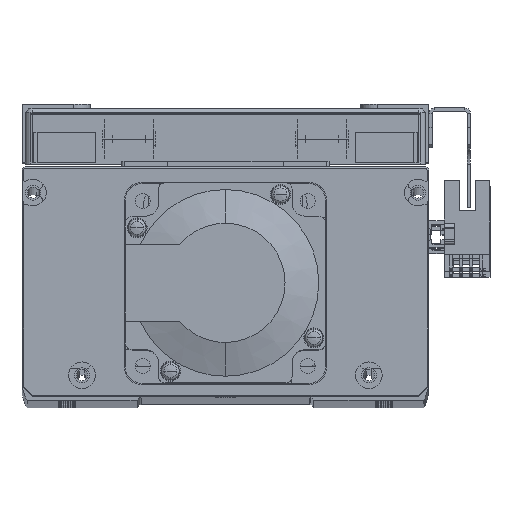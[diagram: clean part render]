
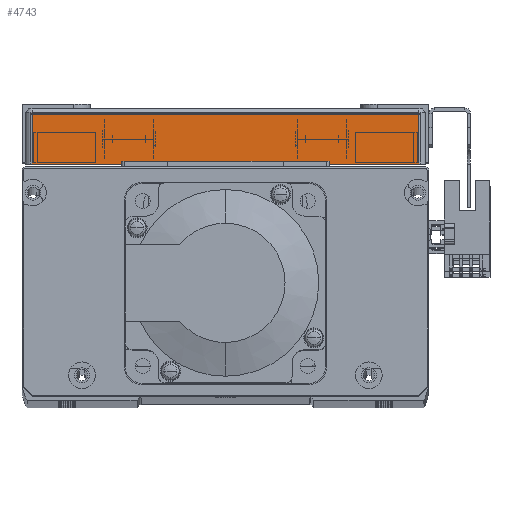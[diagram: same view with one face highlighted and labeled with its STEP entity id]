
A CAD part, top view. The second image highlights one B-rep face of the part: STEP entity #4743.
In plain terms, the highlighted planar face has unit normal (0, 0, 1) as drawn and (1, 0, 0) by its records, which use the part's own axes.
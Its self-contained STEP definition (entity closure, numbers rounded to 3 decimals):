
#400 = VECTOR ( 'NONE', #1021, 1000. ) ;
#406 = LINE ( 'NONE', #1036, #400 ) ;
#461 = LINE ( 'NONE', #1117, #490 ) ;
#465 = LINE ( 'NONE', #1104, #492 ) ;
#480 = VECTOR ( 'NONE', #1068, 1000. ) ;
#490 = VECTOR ( 'NONE', #1120, 1000. ) ;
#492 = VECTOR ( 'NONE', #1122, 1000. ) ;
#499 = LINE ( 'NONE', #1085, #480 ) ;
#1021 = DIRECTION ( 'NONE',  ( 0., 0., -1. ) ) ;
#1036 = CARTESIAN_POINT ( 'NONE',  ( 85.5, 0., -60. ) ) ;
#1068 = DIRECTION ( 'NONE',  ( 0., -1., 0. ) ) ;
#1085 = CARTESIAN_POINT ( 'NONE',  ( 85.5, 16.5, 58. ) ) ;
#1104 = CARTESIAN_POINT ( 'NONE',  ( 85.5, 15.5, 58. ) ) ;
#1117 = CARTESIAN_POINT ( 'NONE',  ( 85.5, 16.5, -58. ) ) ;
#1120 = DIRECTION ( 'NONE',  ( 0., 1., 0. ) ) ;
#1122 = DIRECTION ( 'NONE',  ( 0., 0., 1. ) ) ;
#2980 = CARTESIAN_POINT ( 'NONE',  ( 85.5, 0., -58. ) ) ;
#3052 = CARTESIAN_POINT ( 'NONE',  ( 85.5, 15.5, 58. ) ) ;
#3091 = CARTESIAN_POINT ( 'NONE',  ( 85.5, 15.5, -58. ) ) ;
#3097 = CARTESIAN_POINT ( 'NONE',  ( 85.5, 0., 58. ) ) ;
#4743 = ADVANCED_FACE ( 'NONE', ( #36443 ), #36074, .F. ) ;
#14719 = EDGE_CURVE ( 'NONE', #23432, #23362, #406, .T. ) ;
#14740 = EDGE_CURVE ( 'NONE', #23452, #23432, #499, .T. ) ;
#14749 = EDGE_CURVE ( 'NONE', #23411, #23452, #465, .T. ) ;
#14761 = EDGE_CURVE ( 'NONE', #23362, #23411, #461, .T. ) ;
#21007 = EDGE_LOOP ( 'NONE', ( #22705, #22736, #22746, #22733 ) ) ;
#22705 = ORIENTED_EDGE ( 'NONE', *, *, #14761, .T. ) ;
#22733 = ORIENTED_EDGE ( 'NONE', *, *, #14719, .T. ) ;
#22736 = ORIENTED_EDGE ( 'NONE', *, *, #14749, .T. ) ;
#22746 = ORIENTED_EDGE ( 'NONE', *, *, #14740, .T. ) ;
#23362 = VERTEX_POINT ( 'NONE', #2980 ) ;
#23411 = VERTEX_POINT ( 'NONE', #3091 ) ;
#23432 = VERTEX_POINT ( 'NONE', #3097 ) ;
#23452 = VERTEX_POINT ( 'NONE', #3052 ) ;
#25971 = AXIS2_PLACEMENT_3D ( 'NONE', #36063, #36068, #36076 ) ;
#36063 = CARTESIAN_POINT ( 'NONE',  ( 85.5, 16.5, -60. ) ) ;
#36068 = DIRECTION ( 'NONE',  ( -1., 0., 0. ) ) ;
#36074 = PLANE ( 'NONE',  #25971 ) ;
#36076 = DIRECTION ( 'NONE',  ( 0., 0., 1. ) ) ;
#36443 = FACE_OUTER_BOUND ( 'NONE', #21007, .T. ) ;
